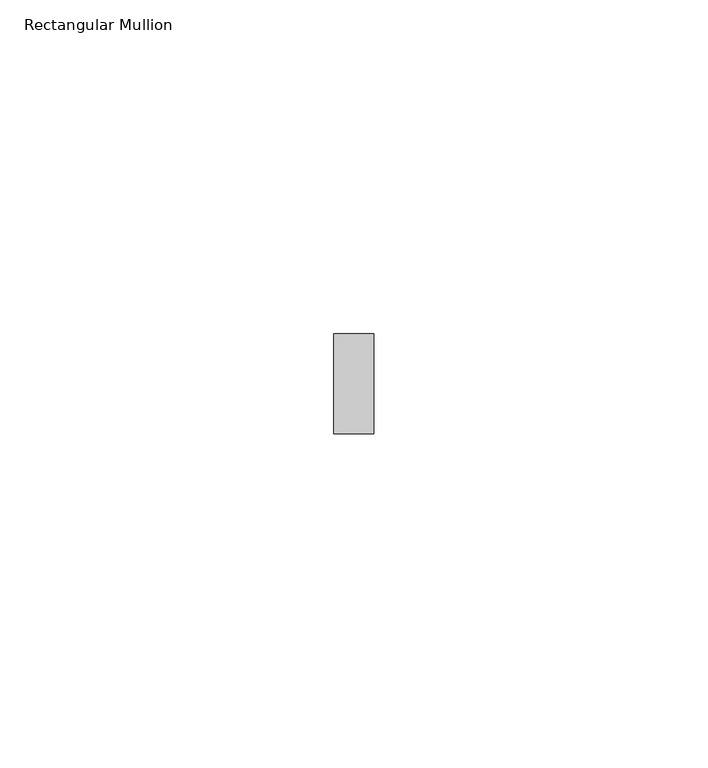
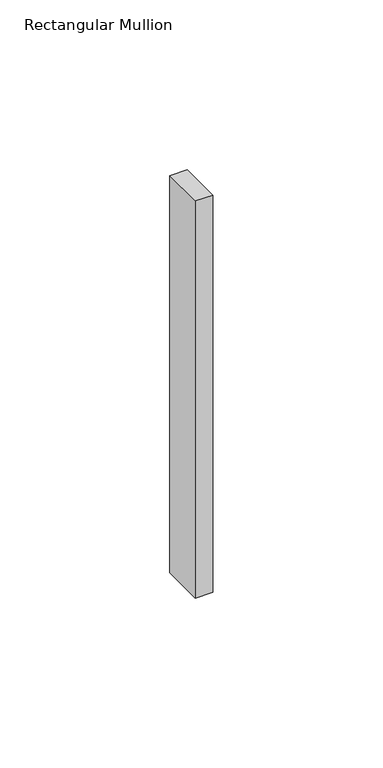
"""IFC4 building model written with IfcOpenShell, lengths in millimetres: member geometry, Rectangular Mullion : ARQ_HERR_15X6mm."""

from ifc_helpers import new_model, si_unit, frame, origin, place, context, project, spatial, polyline, outline, extrude, source, transform, mapped, element, save


def rectangular_mullion_bfd1b04e(model_context):
    return source(origin(), model_context, "Body", "SweptSolid", [
        extrude(outline(polyline([(3.0, 7.5), (3.0, -7.5), (-3.0, -7.5), (-3.0, 7.5), (3.0, 7.5)])), frame((0.0, 0.0, -142.8571429), z_axis=(0.0, 0.0, 1.0), x_axis=(1.0, 0.0, 0.0)), (0.0, 0.0, 1.0), 142.8571429),
    ])


if __name__ == "__main__":
    model = new_model("IFC4")
    model_context = context("Model", 3, world=origin())
    ifc_project = project(units=[si_unit("LENGTHUNIT", "METRE", prefix="MILLI")], contexts=[model_context])
    site = spatial("IfcSite", under=ifc_project)
    building = spatial("IfcBuilding", under=site)
    placement = place(None, origin())
    rectangular_mullion_shape = rectangular_mullion_bfd1b04e(model_context)
    element("IfcMember", 1, ObjectType="Rectangular Mullion : ARQ_HERR_15X6mm", at=placement, inside=building, context=model_context, shape_type="MappedRepresentation", body=[
        mapped(rectangular_mullion_shape, transform((0.0, 0.0, 0.0), x_axis=(1.0, 0.0, 0.0), y_axis=(0.0, 1.0, 0.0), z_axis=(0.0, 0.0, 1.0))),
    ])
    save(model, "model.ifc")
